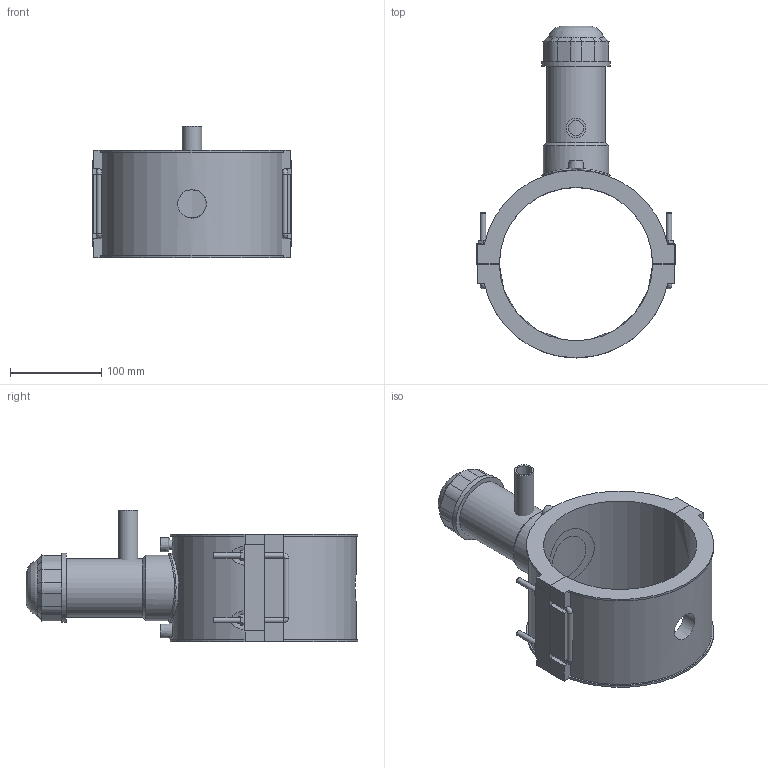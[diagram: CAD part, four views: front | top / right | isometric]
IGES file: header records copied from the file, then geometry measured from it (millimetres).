
Global section: file name: 5963BBP3060005.ipt; native system: Autodesk Inventor 2019; preprocessor: unknown; author: KIM; date: 20210830.101538; units: inch
Bounding box: 217.9 x 363.85 x 144.15 mm (x, y, z)
Volume: 1593446 mm3; surface area: 268304.7 mm2
Topology: 3 solids, 4 shells, 185 faces, 464 edges, 293 vertices
Faces by surface type: plane 115, cylinder 33, cone 15, revolution 13, bspline 9
Full cylindrical faces by diameter (mm): 4 x2, 6 x10, 21.2 x1, 64.26 x1, 71.82 x1, 75.6 x2
